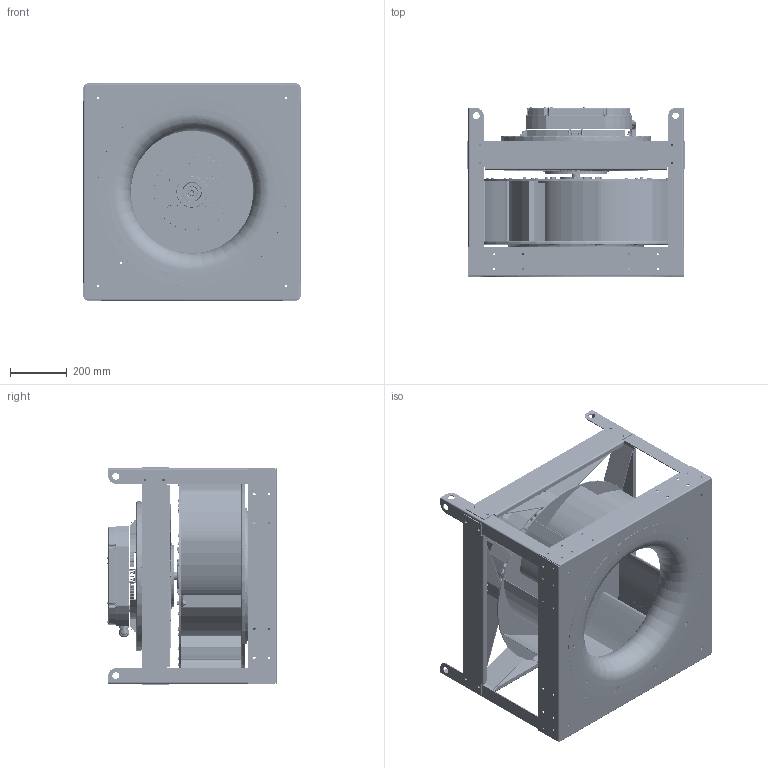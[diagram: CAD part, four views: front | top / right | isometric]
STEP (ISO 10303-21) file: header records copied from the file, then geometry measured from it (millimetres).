
FILE_DESCRIPTION (( 'STEP AP214' ), '1' );
FILE_NAME ('655776.STEP', '2026-04-07T20:33:49', ( '' ), ( '' ), 'SwSTEP 2.0', 'SolidWorks 2023', '' );
FILE_SCHEMA (( 'AUTOMOTIVE_DESIGN' ));
Products named in the file (18): SXP27 INLET_651458; SXP27 WHEEL WELDMENT_655623; SXP27 INLET ASSY_655622; SXPI STRAP_651578; SXP27 BAFFLE_651459; 655776; SXP27 WHEEL ASSY_655624; 925959CS_925959CS; 941153_941153; SXP27 BP_651457; 941768_941768; 651573_651573; SXP27 BLADE_651454; 941044_941044; 651574_651574; 941156_941156; SXP27 FP_651456; 651576_651576
Assembly tree (82 placements, depth 4):
  655776
    651573_651573
    651574_651574  x4
    651576_651576  x4
    SXPI STRAP_651578  x4
    925959CS_925959CS
    SXP27 WHEEL ASSY_655624
      SXP27 WHEEL WELDMENT_655623
        SXP27 FP_651456
        SXP27 BLADE_651454  x9
        SXP27 BP_651457
        941044_941044  x36
      941768_941768
      941153_941153  x6
      941156_941156  x6
    SXP27 INLET ASSY_655622
      SXP27 INLET_651458
      SXP27 BAFFLE_651459  x4
Bounding box: 765.9 x 598.86 x 765.9 mm (x, y, z)
Volume: 10375948.2 mm3; surface area: 8143266.8 mm2
Topology: 78 solids, 370 shells, 7105 faces, 21051 edges, 14187 vertices
Faces by surface type: plane 2777, cylinder 1744, bspline 1439, cone 779, torus 298, sphere 68
Full cylindrical faces by diameter (mm): 2.9 x2, 4.762 x3, 4.763 x15, 5.105 x16, 5.156 x10, 6 x37, 6.35 x36, 7 x5, 7.137 x48, 7.544 x1, 7.937 x3, 7.938 x1, 8.5 x1, 8.738 x87, 9 x4, 9.525 x12, 9.73 x8, 10 x8, 10.1 x1, 11.8 x16, 12.5 x1, 12.6 x1, 13 x15, 13.208 x36, 14 x1, 14.097 x6, 17.462 x2, 17.463 x2, 19.05 x6, 20.32 x10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
Entity records: 277796 total; most frequent: CARTESIAN_POINT 182968, ORIENTED_EDGE 18618, DIRECTION 17053, EDGE_CURVE 11697, VERTEX_POINT 8400, AXIS2_PLACEMENT_3D 6840, EDGE_LOOP 4958, FACE_OUTER_BOUND 4150
